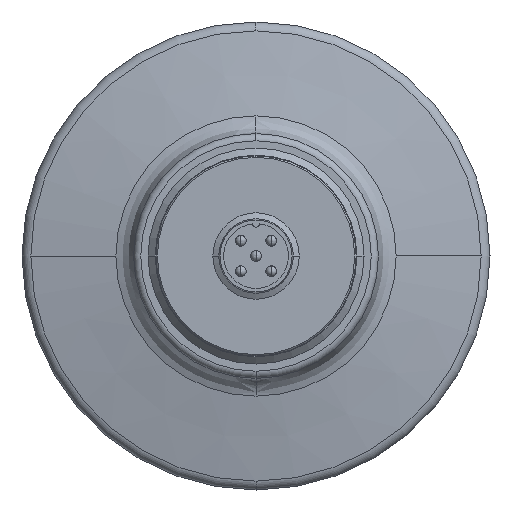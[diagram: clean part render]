
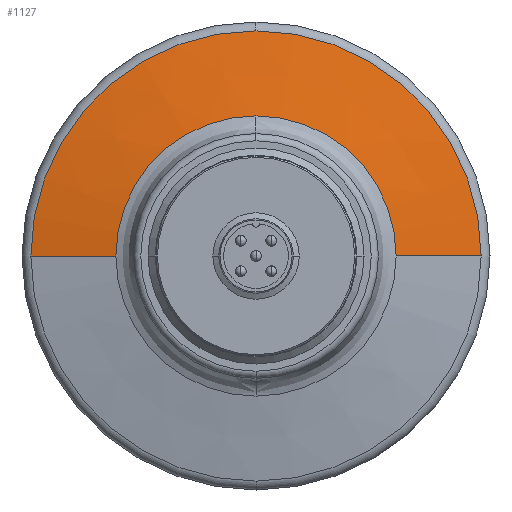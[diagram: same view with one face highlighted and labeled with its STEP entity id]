
A CAD part, left-side view. The second image highlights one B-rep face of the part: STEP entity #1127.
In plain terms, the highlighted conical face has half-angle 79.666 degrees and reference radius 25.366 mm.
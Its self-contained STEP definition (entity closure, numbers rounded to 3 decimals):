
#1042=CARTESIAN_POINT('',(-1.129,31.274,0.0));
#1043=VERTEX_POINT('',#1042);
#1051=CARTESIAN_POINT('',(-1.129,0.005,31.269));
#1052=VERTEX_POINT('',#1051);
#1053=CARTESIAN_POINT('',(-1.129,0.005,0.0));
#1054=DIRECTION('',(1.0,0.0,0.0));
#1055=DIRECTION('',(0.0,1.0,0.0));
#1056=AXIS2_PLACEMENT_3D('',#1053,#1054,#1055);
#1057=CIRCLE('',#1056,31.269);
#1058=EDGE_CURVE('',#1043,#1052,#1057,.T.);
#1078=CARTESIAN_POINT('',(-2.206,0.005,0.0));
#1079=DIRECTION('',(1.0,0.,0.0));
#1080=DIRECTION('',(0.0,1.0,0.0));
#1081=AXIS2_PLACEMENT_3D('',#1078,#1079,#1080);
#1082=CONICAL_SURFACE('',#1081,25.365,79.666);
#1083=CARTESIAN_POINT('',(-3.282,19.466,0.0));
#1084=VERTEX_POINT('',#1083);
#1085=CARTESIAN_POINT('',(-3.282,19.466,0.0));
#1086=DIRECTION('',(0.179,0.984,0.0));
#1087=VECTOR('',#1086,12.002);
#1088=LINE('',#1085,#1087);
#1089=EDGE_CURVE('',#1084,#1043,#1088,.T.);
#1090=ORIENTED_EDGE('',*,*,#1089,.F.);
#1091=CARTESIAN_POINT('',(-3.282,0.005,19.462));
#1092=VERTEX_POINT('',#1091);
#1093=CARTESIAN_POINT('',(-3.282,0.005,0.0));
#1094=DIRECTION('',(1.0,0.0,0.0));
#1095=DIRECTION('',(0.0,1.0,0.0));
#1096=AXIS2_PLACEMENT_3D('',#1093,#1094,#1095);
#1097=CIRCLE('',#1096,19.462);
#1098=EDGE_CURVE('',#1084,#1092,#1097,.T.);
#1099=ORIENTED_EDGE('',*,*,#1098,.T.);
#1100=CARTESIAN_POINT('',(-3.282,-19.457,0.));
#1101=VERTEX_POINT('',#1100);
#1102=CARTESIAN_POINT('',(-3.282,0.005,0.0));
#1103=DIRECTION('',(1.0,0.0,0.0));
#1104=DIRECTION('',(0.0,1.0,0.0));
#1105=AXIS2_PLACEMENT_3D('',#1102,#1103,#1104);
#1106=CIRCLE('',#1105,19.462);
#1107=EDGE_CURVE('',#1092,#1101,#1106,.T.);
#1108=ORIENTED_EDGE('',*,*,#1107,.T.);
#1109=CARTESIAN_POINT('',(-1.129,-31.264,0.));
#1110=VERTEX_POINT('',#1109);
#1111=CARTESIAN_POINT('',(-1.129,-31.264,0.));
#1112=DIRECTION('',(-0.179,0.984,0.));
#1113=VECTOR('',#1112,12.002);
#1114=LINE('',#1111,#1113);
#1115=EDGE_CURVE('',#1110,#1101,#1114,.T.);
#1116=ORIENTED_EDGE('',*,*,#1115,.F.);
#1117=CARTESIAN_POINT('',(-1.129,0.005,0.0));
#1118=DIRECTION('',(1.0,0.0,0.0));
#1119=DIRECTION('',(0.0,1.0,0.0));
#1120=AXIS2_PLACEMENT_3D('',#1117,#1118,#1119);
#1121=CIRCLE('',#1120,31.269);
#1122=EDGE_CURVE('',#1052,#1110,#1121,.T.);
#1123=ORIENTED_EDGE('',*,*,#1122,.F.);
#1124=ORIENTED_EDGE('',*,*,#1058,.F.);
#1125=EDGE_LOOP('',(#1090,#1099,#1108,#1116,#1123,#1124));
#1126=FACE_OUTER_BOUND('',#1125,.T.);
#1127=ADVANCED_FACE('',(#1126),#1082,.T.);
